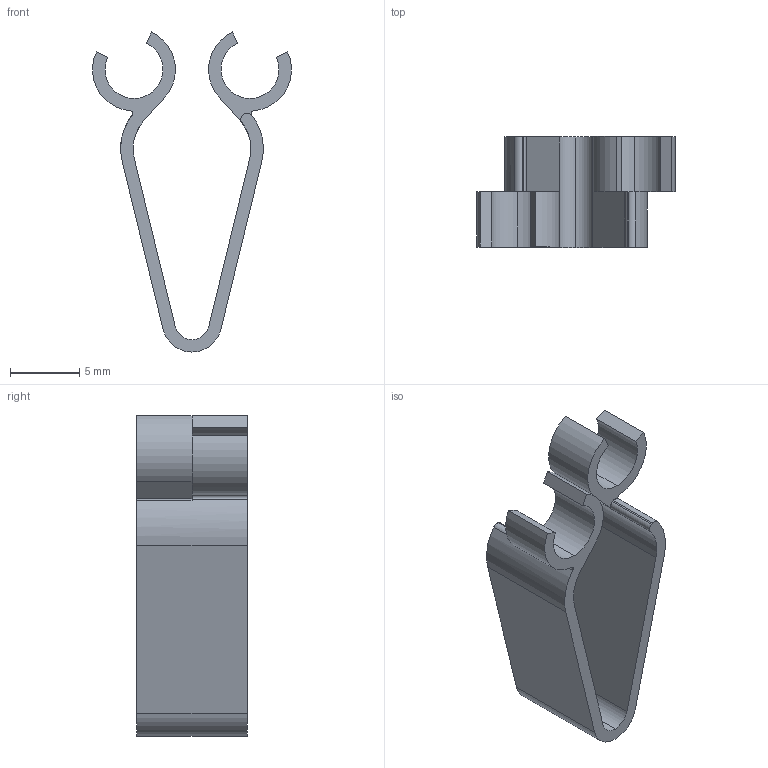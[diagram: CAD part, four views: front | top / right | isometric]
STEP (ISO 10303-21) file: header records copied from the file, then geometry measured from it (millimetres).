
FILE_DESCRIPTION (( 'STEP AP203' ), '1' );
FILE_NAME ('LGX - CR-6 Cable holder.STEP', '2021-04-20T12:37:27', ( '' ), ( '' ), 'SwSTEP 2.0', 'SolidWorks 2020', '' );
FILE_SCHEMA (( 'CONFIG_CONTROL_DESIGN' ));
Length unit declared in the file: millimetre
Products named in the file (1): LGX - CR-6 Cable holder
Bounding box: 14.38 x 8 x 23.17 mm (x, y, z)
Volume: 354.1 mm3; surface area: 902.4 mm2
Topology: 1 solids, 1 shells, 38 faces, 107 edges, 71 vertices
Faces by surface type: cylinder 22, plane 16
Entity records: 1328 total; most frequent: DIRECTION 231, CARTESIAN_POINT 220, ORIENTED_EDGE 214, EDGE_CURVE 107, AXIS2_PLACEMENT_3D 86, VERTEX_POINT 71, VECTOR 59, LINE 59
